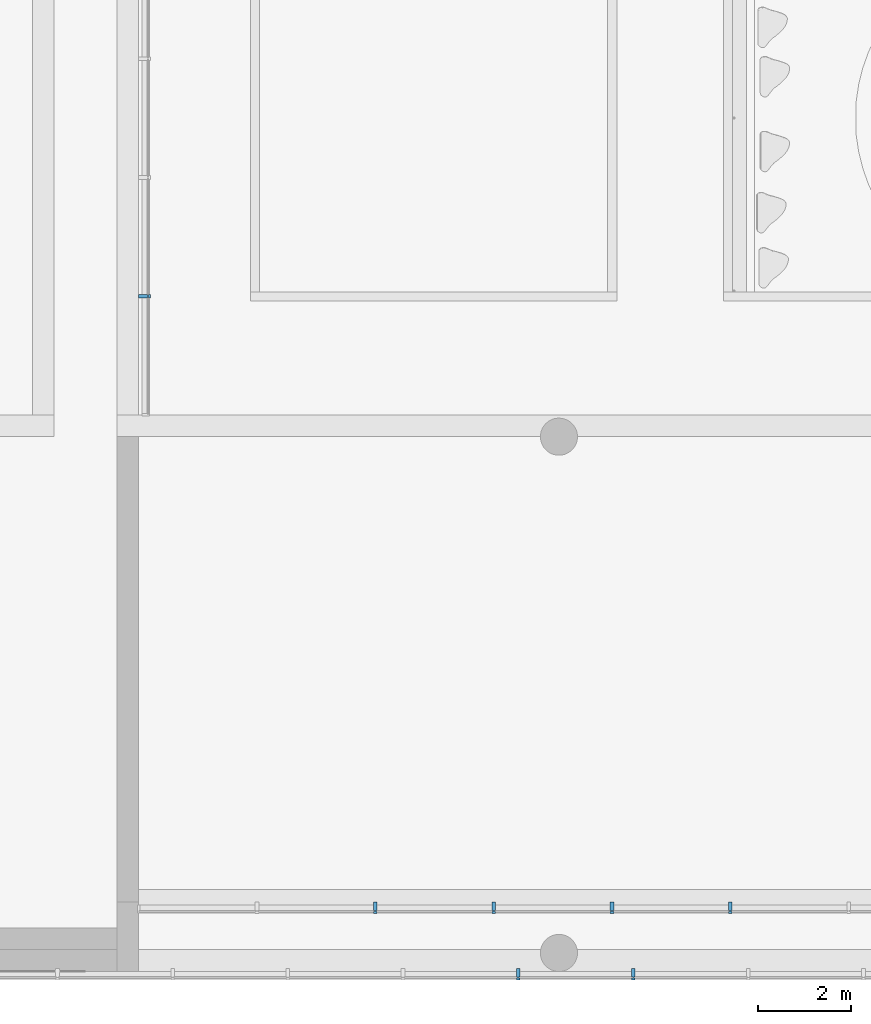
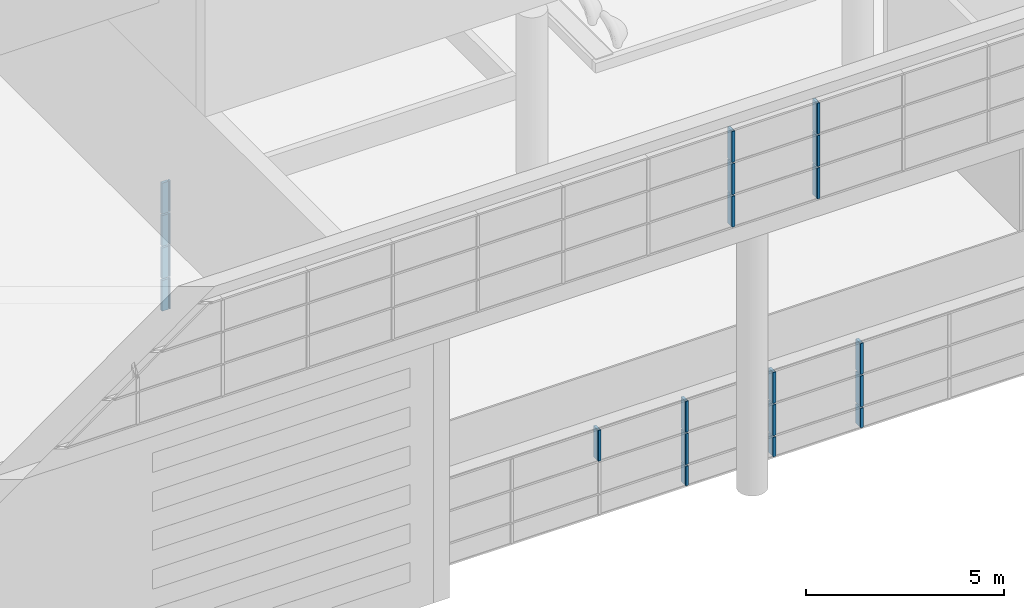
# One storey, part 76 of 105: 20 building element parts, 4 elements without a shape of their own.
"""IFC4 building model written with IfcOpenShell, lengths in millimetres."""

from ifc_helpers import new_model, entity, si_unit, converted_unit, derived_unit, direction, frame, origin_with_axes, place, context, subcontext, project, spatial, triangles, material, element, aggregate, save


model = new_model("IFC4")

# Units and contexts
model_context = context("Model", 3, precision=1e-05, world=origin_with_axes(), true_north=direction((0.0, 1.0)))
body_context = subcontext(model_context, "Body", "Model", "MODEL_VIEW")
ifc_project = project(units=[si_unit("LENGTHUNIT", "METRE", prefix="MILLI"), si_unit("AREAUNIT", "SQUARE_METRE"), si_unit("VOLUMEUNIT", "CUBIC_METRE"), converted_unit("PLANEANGLEUNIT", "DEGREE", entity("IfcLengthMeasure", 0.017453), si_unit("PLANEANGLEUNIT", "RADIAN"), dimensions=[0, 0, 0, 0, 0, 0, 0]), si_unit("SOLIDANGLEUNIT", "STERADIAN"), si_unit("MASSUNIT", "GRAM"), si_unit("TIMEUNIT", "SECOND"), si_unit("THERMODYNAMICTEMPERATUREUNIT", "DEGREE_CELSIUS"), si_unit("LUMINOUSINTENSITYUNIT", "LUMEN"), si_unit("POWERUNIT", "WATT"), derived_unit("THERMALTRANSMITTANCEUNIT", [(si_unit("POWERUNIT", "WATT"), 1), (si_unit("THERMODYNAMICTEMPERATUREUNIT", "KELVIN"), -1), (si_unit("AREAUNIT", "SQUARE_METRE"), -1)])], contexts=[model_context])

# Site, building, storey
site_placement = place(None, origin_with_axes())
site = spatial("IfcSite", under=ifc_project, at=site_placement, Name="Default Site", CompositionType="ELEMENT")
building_placement = place(site_placement, origin_with_axes())
building = spatial("IfcBuilding", under=site, at=building_placement, Name="Default Building", CompositionType="ELEMENT")
storey_placement = place(building_placement, origin_with_axes())
storey = spatial("IfcBuildingStorey", under=building, at=storey_placement, Name="OG - Story", CompositionType="ELEMENT", Elevation=0.0)

# Curtain wall, building element parts
curtain_wall_1_placement = place(storey_placement, origin_with_axes())
curtain_wall_1 = element("IfcCurtainWall", 1, at=curtain_wall_1_placement, inside=storey, Name="Fassade-001", PredefinedType="NOTDEFINED")
ifc_material = material(Name="Blech")
building_element_part_1_placement = place(curtain_wall_1_placement, frame((52496.845873, -51289.262838, 0.0), z_axis=(0.0, 0.0, 1.0), x_axis=(1.0, 0.0, 0.0)))
building_element_part_1 = element("IfcBuildingElementPart", 2, at=building_element_part_1_placement, material=ifc_material, Name="Blech", PredefinedType="NOTDEFINED", context=body_context, shape_type="Tessellation", body=[
    triangles([(6417.273, 10.0, 625.0), (6417.273, 200.0, 625.0), (6387.273, 10.0, 625.0), (6367.273, 10.0, 625.0), (6387.273, -9.999, 625.0), (6417.273, -49.999, 625.0), (6417.273, -9.999, 625.0), (6337.273, 200.0, 625.0), (6337.273, 10.0, 625.0), (6367.273, -9.999, 625.0), (6337.273, -9.999, 625.0), (6337.273, -49.999, 625.0), (6387.273, 10.0, 25.0), (6417.273, 10.0, 25.0), (6417.273, 200.0, 25.0), (6337.273, 200.0, 25.0), (6337.273, 10.0, 25.0), (6367.273, 10.0, 25.0), (6367.273, -9.999, 25.0), (6337.273, -9.999, 25.0), (6337.273, -49.999, 25.0), (6417.273, -49.999, 25.0), (6417.273, -9.999, 25.0), (6387.273, -9.999, 25.0)], [[1, 2, 3], [3, 2, 4], [3, 4, 5], [5, 4, 6], [5, 6, 7], [8, 9, 4], [8, 4, 2], [6, 4, 10], [6, 10, 11], [6, 11, 12], [1, 3, 13], [1, 13, 14], [1, 14, 15], [1, 15, 2], [2, 15, 16], [2, 16, 8], [9, 8, 16], [9, 16, 17], [9, 17, 18], [9, 18, 4], [4, 18, 19], [4, 19, 10], [11, 10, 19], [11, 19, 20], [20, 21, 12], [20, 12, 11], [12, 21, 22], [12, 22, 6], [23, 7, 6], [23, 6, 22], [5, 7, 23], [5, 23, 24], [3, 5, 24], [3, 24, 13], [23, 22, 24], [24, 22, 19], [24, 19, 13], [13, 19, 15], [13, 15, 14], [21, 20, 19], [21, 19, 22], [15, 19, 18], [15, 18, 17], [15, 17, 16]], closed=False),
])
building_element_part_2_placement = place(curtain_wall_1_placement, frame((52496.845873, -51289.262838, 0.0), z_axis=(0.0, 0.0, 1.0), x_axis=(1.0, 0.0, 0.0)))
building_element_part_2 = element("IfcBuildingElementPart", 3, at=building_element_part_2_placement, material=ifc_material, Name="Blech", PredefinedType="NOTDEFINED", context=body_context, shape_type="Tessellation", body=[
    triangles([(8968.182, 10.0, 625.0), (8968.182, 200.0, 625.0), (8938.182, 10.0, 625.0), (8918.182, 10.0, 625.0), (8938.182, -9.999, 625.0), (8968.182, -49.999, 625.0), (8968.182, -9.999, 625.0), (8888.182, 200.0, 625.0), (8888.182, 10.0, 625.0), (8918.182, -9.999, 625.0), (8888.182, -9.999, 625.0), (8888.182, -49.999, 625.0), (8938.182, 10.0, 25.0), (8968.182, 10.0, 25.0), (8968.182, 200.0, 25.0), (8888.182, 200.0, 25.0), (8888.182, 10.0, 25.0), (8918.182, 10.0, 25.0), (8918.182, -9.999, 25.0), (8888.182, -9.999, 25.0), (8888.182, -49.999, 25.0), (8968.182, -49.999, 25.0), (8968.182, -9.999, 25.0), (8938.182, -9.999, 25.0)], [[1, 2, 3], [3, 2, 4], [3, 4, 5], [5, 4, 6], [5, 6, 7], [8, 9, 4], [8, 4, 2], [6, 4, 10], [6, 10, 11], [6, 11, 12], [1, 3, 13], [1, 13, 14], [1, 14, 15], [1, 15, 2], [2, 15, 16], [2, 16, 8], [9, 8, 16], [9, 16, 17], [9, 17, 18], [9, 18, 4], [4, 18, 19], [4, 19, 10], [11, 10, 19], [11, 19, 20], [20, 21, 12], [20, 12, 11], [12, 21, 22], [12, 22, 6], [23, 7, 6], [23, 6, 22], [5, 7, 23], [5, 23, 24], [3, 5, 24], [3, 24, 13], [23, 22, 24], [24, 22, 19], [24, 19, 13], [13, 19, 15], [13, 15, 14], [21, 20, 19], [21, 19, 22], [15, 19, 18], [15, 18, 17], [15, 17, 16]], closed=False),
])
building_element_part_3_placement = place(curtain_wall_1_placement, frame((52496.845873, -51289.262838, 0.0), z_axis=(0.0, 0.0, 1.0), x_axis=(1.0, 0.0, 0.0)))
building_element_part_3 = element("IfcBuildingElementPart", 4, at=building_element_part_3_placement, material=ifc_material, Name="Blech", PredefinedType="NOTDEFINED", context=body_context, shape_type="Tessellation", body=[
    triangles([(11519.091, 10.0, 625.0), (11519.091, 200.0, 625.0), (11489.091, 10.0, 625.0), (11469.091, 10.0, 625.0), (11489.091, -9.999, 625.0), (11519.091, -49.999, 625.0), (11519.091, -9.999, 625.0), (11439.091, 200.0, 625.0), (11439.091, 10.0, 625.0), (11469.091, -9.999, 625.0), (11439.091, -9.999, 625.0), (11439.091, -49.999, 625.0), (11489.091, 10.0, 25.0), (11519.091, 10.0, 25.0), (11519.091, 200.0, 25.0), (11439.091, 200.0, 25.0), (11439.091, 10.0, 25.0), (11469.091, 10.0, 25.0), (11469.091, -9.999, 25.0), (11439.091, -9.999, 25.0), (11439.091, -49.999, 25.0), (11519.091, -49.999, 25.0), (11519.091, -9.999, 25.0), (11489.091, -9.999, 25.0)], [[1, 2, 3], [3, 2, 4], [3, 4, 5], [5, 4, 6], [5, 6, 7], [8, 9, 4], [8, 4, 2], [6, 4, 10], [6, 10, 11], [6, 11, 12], [1, 3, 13], [1, 13, 14], [1, 14, 15], [1, 15, 2], [2, 15, 16], [2, 16, 8], [9, 8, 16], [9, 16, 17], [9, 17, 18], [9, 18, 4], [4, 18, 19], [4, 19, 10], [11, 10, 19], [11, 19, 20], [20, 21, 12], [20, 12, 11], [12, 21, 22], [12, 22, 6], [23, 7, 6], [23, 6, 22], [5, 7, 23], [5, 23, 24], [3, 5, 24], [3, 24, 13], [23, 22, 24], [24, 22, 19], [24, 19, 13], [13, 19, 15], [13, 15, 14], [21, 20, 19], [21, 19, 22], [15, 19, 18], [15, 18, 17], [15, 17, 16]], closed=False),
])
building_element_part_4_placement = place(curtain_wall_1_placement, frame((52496.845873, -51289.262838, 0.0), z_axis=(0.0, 0.0, 1.0), x_axis=(1.0, 0.0, 0.0)))
building_element_part_4 = element("IfcBuildingElementPart", 5, at=building_element_part_4_placement, material=ifc_material, Name="Blech", PredefinedType="NOTDEFINED", context=body_context, shape_type="Tessellation", body=[
    triangles([(6417.273, 10.0, 1625.0), (6417.273, 200.0, 1625.0), (6387.273, 10.0, 1625.0), (6367.273, 10.0, 1625.0), (6387.273, -9.999, 1625.0), (6417.273, -49.999, 1625.0), (6417.273, -9.999, 1625.0), (6337.273, 200.0, 1625.0), (6337.273, 10.0, 1625.0), (6367.273, -9.999, 1625.0), (6337.273, -9.999, 1625.0), (6337.273, -49.999, 1625.0), (6387.273, 10.0, 675.0), (6417.273, 10.0, 675.0), (6417.273, 200.0, 675.0), (6337.273, 200.0, 675.0), (6337.273, 10.0, 675.0), (6367.273, 10.0, 675.0), (6367.273, -9.999, 675.0), (6337.273, -9.999, 675.0), (6337.273, -49.999, 675.0), (6417.273, -49.999, 675.0), (6417.273, -9.999, 675.0), (6387.273, -9.999, 675.0)], [[1, 2, 3], [3, 2, 4], [3, 4, 5], [5, 4, 6], [5, 6, 7], [8, 9, 4], [8, 4, 2], [6, 4, 10], [6, 10, 11], [6, 11, 12], [1, 3, 13], [1, 13, 14], [1, 14, 15], [1, 15, 2], [2, 15, 16], [2, 16, 8], [9, 8, 16], [9, 16, 17], [9, 17, 18], [9, 18, 4], [4, 18, 19], [4, 19, 10], [11, 10, 19], [11, 19, 20], [20, 21, 12], [20, 12, 11], [12, 21, 22], [12, 22, 6], [23, 7, 6], [23, 6, 22], [5, 7, 23], [5, 23, 24], [3, 5, 24], [3, 24, 13], [23, 22, 24], [24, 22, 19], [24, 19, 13], [13, 19, 15], [13, 15, 14], [21, 20, 19], [21, 19, 22], [15, 19, 18], [15, 18, 17], [15, 17, 16]], closed=False),
])
building_element_part_5_placement = place(curtain_wall_1_placement, frame((52496.845873, -51289.262838, 0.0), z_axis=(0.0, 0.0, 1.0), x_axis=(1.0, 0.0, 0.0)))
building_element_part_5 = element("IfcBuildingElementPart", 6, at=building_element_part_5_placement, material=ifc_material, Name="Blech", PredefinedType="NOTDEFINED", context=body_context, shape_type="Tessellation", body=[
    triangles([(8968.182, 10.0, 1625.0), (8968.182, 200.0, 1625.0), (8938.182, 10.0, 1625.0), (8918.182, 10.0, 1625.0), (8938.182, -9.999, 1625.0), (8968.182, -49.999, 1625.0), (8968.182, -9.999, 1625.0), (8888.182, 200.0, 1625.0), (8888.182, 10.0, 1625.0), (8918.182, -9.999, 1625.0), (8888.182, -9.999, 1625.0), (8888.182, -49.999, 1625.0), (8938.182, 10.0, 675.0), (8968.182, 10.0, 675.0), (8968.182, 200.0, 675.0), (8888.182, 200.0, 675.0), (8888.182, 10.0, 675.0), (8918.182, 10.0, 675.0), (8918.182, -9.999, 675.0), (8888.182, -9.999, 675.0), (8888.182, -49.999, 675.0), (8968.182, -49.999, 675.0), (8968.182, -9.999, 675.0), (8938.182, -9.999, 675.0)], [[1, 2, 3], [3, 2, 4], [3, 4, 5], [5, 4, 6], [5, 6, 7], [8, 9, 4], [8, 4, 2], [6, 4, 10], [6, 10, 11], [6, 11, 12], [1, 3, 13], [1, 13, 14], [1, 14, 15], [1, 15, 2], [2, 15, 16], [2, 16, 8], [9, 8, 16], [9, 16, 17], [9, 17, 18], [9, 18, 4], [4, 18, 19], [4, 19, 10], [11, 10, 19], [11, 19, 20], [20, 21, 12], [20, 12, 11], [12, 21, 22], [12, 22, 6], [23, 7, 6], [23, 6, 22], [5, 7, 23], [5, 23, 24], [3, 5, 24], [3, 24, 13], [23, 22, 24], [24, 22, 19], [24, 19, 13], [13, 19, 15], [13, 15, 14], [21, 20, 19], [21, 19, 22], [15, 19, 18], [15, 18, 17], [15, 17, 16]], closed=False),
])
building_element_part_6_placement = place(curtain_wall_1_placement, frame((52496.845873, -51289.262838, 0.0), z_axis=(0.0, 0.0, 1.0), x_axis=(1.0, 0.0, 0.0)))
building_element_part_6 = element("IfcBuildingElementPart", 7, at=building_element_part_6_placement, material=ifc_material, Name="Blech", PredefinedType="NOTDEFINED", context=body_context, shape_type="Tessellation", body=[
    triangles([(11519.091, 10.0, 1625.0), (11519.091, 200.0, 1625.0), (11489.091, 10.0, 1625.0), (11469.091, 10.0, 1625.0), (11489.091, -9.999, 1625.0), (11519.091, -49.999, 1625.0), (11519.091, -9.999, 1625.0), (11439.091, 200.0, 1625.0), (11439.091, 10.0, 1625.0), (11469.091, -9.999, 1625.0), (11439.091, -9.999, 1625.0), (11439.091, -49.999, 1625.0), (11489.091, 10.0, 675.0), (11519.091, 10.0, 675.0), (11519.091, 200.0, 675.0), (11439.091, 200.0, 675.0), (11439.091, 10.0, 675.0), (11469.091, 10.0, 675.0), (11469.091, -9.999, 675.0), (11439.091, -9.999, 675.0), (11439.091, -49.999, 675.0), (11519.091, -49.999, 675.0), (11519.091, -9.999, 675.0), (11489.091, -9.999, 675.0)], [[1, 2, 3], [3, 2, 4], [3, 4, 5], [5, 4, 6], [5, 6, 7], [8, 9, 4], [8, 4, 2], [6, 4, 10], [6, 10, 11], [6, 11, 12], [1, 3, 13], [1, 13, 14], [1, 14, 15], [1, 15, 2], [2, 15, 16], [2, 16, 8], [9, 8, 16], [9, 16, 17], [9, 17, 18], [9, 18, 4], [4, 18, 19], [4, 19, 10], [11, 10, 19], [11, 19, 20], [20, 21, 12], [20, 12, 11], [12, 21, 22], [12, 22, 6], [23, 7, 6], [23, 6, 22], [5, 7, 23], [5, 23, 24], [3, 5, 24], [3, 24, 13], [23, 22, 24], [24, 22, 19], [24, 19, 13], [13, 19, 15], [13, 15, 14], [21, 20, 19], [21, 19, 22], [15, 19, 18], [15, 18, 17], [15, 17, 16]], closed=False),
])
building_element_part_7_placement = place(curtain_wall_1_placement, frame((52496.845873, -51289.262838, 0.0), z_axis=(0.0, 0.0, 1.0), x_axis=(1.0, 0.0, 0.0)))
building_element_part_7 = element("IfcBuildingElementPart", 8, at=building_element_part_7_placement, material=ifc_material, Name="Blech", PredefinedType="NOTDEFINED", context=body_context, shape_type="Tessellation", body=[
    triangles([(3866.364, 10.0, 2625.0), (3866.364, 200.0, 2625.0), (3836.364, 10.0, 2625.0), (3816.364, 10.0, 2625.0), (3836.364, -9.999, 2625.0), (3866.364, -49.999, 2625.0), (3866.364, -9.999, 2625.0), (3786.364, 200.0, 2625.0), (3786.364, 10.0, 2625.0), (3816.364, -9.999, 2625.0), (3786.364, -9.999, 2625.0), (3786.364, -49.999, 2625.0), (3836.364, 10.0, 1675.0), (3866.364, 10.0, 1675.0), (3866.364, 200.0, 1675.0), (3786.364, 200.0, 1675.0), (3786.364, 10.0, 1675.0), (3816.364, 10.0, 1675.0), (3816.364, -9.999, 1675.0), (3786.364, -9.999, 1675.0), (3786.364, -49.999, 1675.0), (3866.364, -49.999, 1675.0), (3866.364, -9.999, 1675.0), (3836.364, -9.999, 1675.0)], [[1, 2, 3], [3, 2, 4], [3, 4, 5], [5, 4, 6], [5, 6, 7], [8, 9, 4], [8, 4, 2], [6, 4, 10], [6, 10, 11], [6, 11, 12], [1, 3, 13], [1, 13, 14], [1, 14, 15], [1, 15, 2], [2, 15, 16], [2, 16, 8], [9, 8, 16], [9, 16, 17], [9, 17, 18], [9, 18, 4], [4, 18, 19], [4, 19, 10], [11, 10, 19], [11, 19, 20], [20, 21, 12], [20, 12, 11], [12, 21, 22], [12, 22, 6], [23, 7, 6], [23, 6, 22], [5, 7, 23], [5, 23, 24], [3, 5, 24], [3, 24, 13], [23, 22, 24], [24, 22, 19], [24, 19, 13], [13, 19, 15], [13, 15, 14], [21, 20, 19], [21, 19, 22], [15, 19, 18], [15, 18, 17], [15, 17, 16]], closed=False),
])
building_element_part_8_placement = place(curtain_wall_1_placement, frame((52496.845873, -51289.262838, 0.0), z_axis=(0.0, 0.0, 1.0), x_axis=(1.0, 0.0, 0.0)))
building_element_part_8 = element("IfcBuildingElementPart", 9, at=building_element_part_8_placement, material=ifc_material, Name="Blech", PredefinedType="NOTDEFINED", context=body_context, shape_type="Tessellation", body=[
    triangles([(6417.273, 10.0, 2625.0), (6417.273, 200.0, 2625.0), (6387.273, 10.0, 2625.0), (6367.273, 10.0, 2625.0), (6387.273, -9.999, 2625.0), (6417.273, -49.999, 2625.0), (6417.273, -9.999, 2625.0), (6337.273, 200.0, 2625.0), (6337.273, 10.0, 2625.0), (6367.273, -9.999, 2625.0), (6337.273, -9.999, 2625.0), (6337.273, -49.999, 2625.0), (6387.273, 10.0, 1675.0), (6417.273, 10.0, 1675.0), (6417.273, 200.0, 1675.0), (6337.273, 200.0, 1675.0), (6337.273, 10.0, 1675.0), (6367.273, 10.0, 1675.0), (6367.273, -9.999, 1675.0), (6337.273, -9.999, 1675.0), (6337.273, -49.999, 1675.0), (6417.273, -49.999, 1675.0), (6417.273, -9.999, 1675.0), (6387.273, -9.999, 1675.0)], [[1, 2, 3], [3, 2, 4], [3, 4, 5], [5, 4, 6], [5, 6, 7], [8, 9, 4], [8, 4, 2], [6, 4, 10], [6, 10, 11], [6, 11, 12], [1, 3, 13], [1, 13, 14], [1, 14, 15], [1, 15, 2], [2, 15, 16], [2, 16, 8], [9, 8, 16], [9, 16, 17], [9, 17, 18], [9, 18, 4], [4, 18, 19], [4, 19, 10], [11, 10, 19], [11, 19, 20], [20, 21, 12], [20, 12, 11], [12, 21, 22], [12, 22, 6], [23, 7, 6], [23, 6, 22], [5, 7, 23], [5, 23, 24], [3, 5, 24], [3, 24, 13], [23, 22, 24], [24, 22, 19], [24, 19, 13], [13, 19, 15], [13, 15, 14], [21, 20, 19], [21, 19, 22], [15, 19, 18], [15, 18, 17], [15, 17, 16]], closed=False),
])
building_element_part_9_placement = place(curtain_wall_1_placement, frame((52496.845873, -51289.262838, 0.0), z_axis=(0.0, 0.0, 1.0), x_axis=(1.0, 0.0, 0.0)))
building_element_part_9 = element("IfcBuildingElementPart", 10, at=building_element_part_9_placement, material=ifc_material, Name="Blech", PredefinedType="NOTDEFINED", context=body_context, shape_type="Tessellation", body=[
    triangles([(8968.182, 10.0, 2625.0), (8968.182, 200.0, 2625.0), (8938.182, 10.0, 2625.0), (8918.182, 10.0, 2625.0), (8938.182, -9.999, 2625.0), (8968.182, -49.999, 2625.0), (8968.182, -9.999, 2625.0), (8888.182, 200.0, 2625.0), (8888.182, 10.0, 2625.0), (8918.182, -9.999, 2625.0), (8888.182, -9.999, 2625.0), (8888.182, -49.999, 2625.0), (8938.182, 10.0, 1675.0), (8968.182, 10.0, 1675.0), (8968.182, 200.0, 1675.0), (8888.182, 200.0, 1675.0), (8888.182, 10.0, 1675.0), (8918.182, 10.0, 1675.0), (8918.182, -9.999, 1675.0), (8888.182, -9.999, 1675.0), (8888.182, -49.999, 1675.0), (8968.182, -49.999, 1675.0), (8968.182, -9.999, 1675.0), (8938.182, -9.999, 1675.0)], [[1, 2, 3], [3, 2, 4], [3, 4, 5], [5, 4, 6], [5, 6, 7], [8, 9, 4], [8, 4, 2], [6, 4, 10], [6, 10, 11], [6, 11, 12], [1, 3, 13], [1, 13, 14], [1, 14, 15], [1, 15, 2], [2, 15, 16], [2, 16, 8], [9, 8, 16], [9, 16, 17], [9, 17, 18], [9, 18, 4], [4, 18, 19], [4, 19, 10], [11, 10, 19], [11, 19, 20], [20, 21, 12], [20, 12, 11], [12, 21, 22], [12, 22, 6], [23, 7, 6], [23, 6, 22], [5, 7, 23], [5, 23, 24], [3, 5, 24], [3, 24, 13], [23, 22, 24], [24, 22, 19], [24, 19, 13], [13, 19, 15], [13, 15, 14], [21, 20, 19], [21, 19, 22], [15, 19, 18], [15, 18, 17], [15, 17, 16]], closed=False),
])
building_element_part_10_placement = place(curtain_wall_1_placement, frame((52496.845873, -51289.262838, 0.0), z_axis=(0.0, 0.0, 1.0), x_axis=(1.0, 0.0, 0.0)))
building_element_part_10 = element("IfcBuildingElementPart", 11, at=building_element_part_10_placement, material=ifc_material, Name="Blech", PredefinedType="NOTDEFINED", context=body_context, shape_type="Tessellation", body=[
    triangles([(11519.091, 10.0, 2625.0), (11519.091, 200.0, 2625.0), (11489.091, 10.0, 2625.0), (11469.091, 10.0, 2625.0), (11489.091, -9.999, 2625.0), (11519.091, -49.999, 2625.0), (11519.091, -9.999, 2625.0), (11439.091, 200.0, 2625.0), (11439.091, 10.0, 2625.0), (11469.091, -9.999, 2625.0), (11439.091, -9.999, 2625.0), (11439.091, -49.999, 2625.0), (11489.091, 10.0, 1675.0), (11519.091, 10.0, 1675.0), (11519.091, 200.0, 1675.0), (11439.091, 200.0, 1675.0), (11439.091, 10.0, 1675.0), (11469.091, 10.0, 1675.0), (11469.091, -9.999, 1675.0), (11439.091, -9.999, 1675.0), (11439.091, -49.999, 1675.0), (11519.091, -49.999, 1675.0), (11519.091, -9.999, 1675.0), (11489.091, -9.999, 1675.0)], [[1, 2, 3], [3, 2, 4], [3, 4, 5], [5, 4, 6], [5, 6, 7], [8, 9, 4], [8, 4, 2], [6, 4, 10], [6, 10, 11], [6, 11, 12], [1, 3, 13], [1, 13, 14], [1, 14, 15], [1, 15, 2], [2, 15, 16], [2, 16, 8], [9, 8, 16], [9, 16, 17], [9, 17, 18], [9, 18, 4], [4, 18, 19], [4, 19, 10], [11, 10, 19], [11, 19, 20], [20, 21, 12], [20, 12, 11], [12, 21, 22], [12, 22, 6], [23, 7, 6], [23, 6, 22], [5, 7, 23], [5, 23, 24], [3, 5, 24], [3, 24, 13], [23, 22, 24], [24, 22, 19], [24, 19, 13], [13, 19, 15], [13, 15, 14], [21, 20, 19], [21, 19, 22], [15, 19, 18], [15, 18, 17], [15, 17, 16]], closed=False),
])
aggregate(curtain_wall_1, [building_element_part_1, building_element_part_2, building_element_part_3, building_element_part_4, building_element_part_5, building_element_part_6, building_element_part_7, building_element_part_8, building_element_part_9, building_element_part_10])

curtain_wall_2_placement = place(storey_placement, origin_with_axes())
curtain_wall_2 = element("IfcCurtainWall", 12, at=curtain_wall_2_placement, inside=storey, Name="Fassade-002", PredefinedType="NOTDEFINED")
building_element_part_11_placement = place(curtain_wall_2_placement, frame((33339.077852, -52722.262838, 8660.317768), z_axis=(0.0, 0.0, 1.0), x_axis=(1.0, 0.0, 0.0)))
building_element_part_11 = element("IfcBuildingElementPart", 13, at=building_element_part_11_placement, material=ifc_material, Name="Blech", PredefinedType="NOTDEFINED", context=body_context, shape_type="Tessellation", body=[
    triangles([(26101.975, 10.0, 975.0), (26101.975, 200.0, 975.0), (26071.975, 10.0, 975.0), (26051.975, 10.0, 975.0), (26071.975, -9.999, 975.0), (26101.975, -49.999, 975.0), (26101.975, -9.999, 975.0), (26021.975, 200.0, 975.0), (26021.975, 10.0, 975.0), (26051.975, -9.999, 975.0), (26021.975, -9.999, 975.0), (26021.975, -49.999, 975.0), (26071.975, 10.0, 25.0), (26101.975, 10.0, 25.0), (26101.975, 200.0, 25.0), (26021.975, 200.0, 25.0), (26021.975, 10.0, 25.0), (26051.975, 10.0, 25.0), (26051.975, -9.999, 25.0), (26021.975, -9.999, 25.0), (26021.975, -49.999, 25.0), (26101.975, -49.999, 25.0), (26101.975, -9.999, 25.0), (26071.975, -9.999, 25.0)], [[1, 2, 3], [3, 2, 4], [3, 4, 5], [5, 4, 6], [5, 6, 7], [8, 9, 4], [8, 4, 2], [6, 4, 10], [6, 10, 11], [6, 11, 12], [1, 3, 13], [1, 13, 14], [1, 14, 15], [1, 15, 2], [2, 15, 16], [2, 16, 8], [9, 8, 16], [9, 16, 17], [9, 17, 18], [9, 18, 4], [4, 18, 19], [4, 19, 10], [11, 10, 19], [11, 19, 20], [20, 21, 12], [20, 12, 11], [12, 21, 22], [12, 22, 6], [23, 7, 6], [23, 6, 22], [5, 7, 23], [5, 23, 24], [3, 5, 24], [3, 24, 13], [23, 22, 24], [24, 22, 19], [24, 19, 13], [13, 19, 15], [13, 15, 14], [21, 20, 19], [21, 19, 22], [15, 19, 18], [15, 18, 17], [15, 17, 16]], closed=False),
])
building_element_part_12_placement = place(curtain_wall_2_placement, frame((33339.077852, -52722.262838, 8660.317768), z_axis=(0.0, 0.0, 1.0), x_axis=(1.0, 0.0, 0.0)))
building_element_part_12 = element("IfcBuildingElementPart", 14, at=building_element_part_12_placement, material=ifc_material, Name="Blech", PredefinedType="NOTDEFINED", context=body_context, shape_type="Tessellation", body=[
    triangles([(26101.975, 10.0, 1975.0), (26101.975, 200.0, 1975.0), (26071.975, 10.0, 1975.0), (26051.975, 10.0, 1975.0), (26071.975, -9.999, 1975.0), (26101.975, -49.999, 1975.0), (26101.975, -9.999, 1975.0), (26021.975, 200.0, 1975.0), (26021.975, 10.0, 1975.0), (26051.975, -9.999, 1975.0), (26021.975, -9.999, 1975.0), (26021.975, -49.999, 1975.0), (26071.975, 10.0, 1025.0), (26101.975, 10.0, 1025.0), (26101.975, 200.0, 1025.0), (26021.975, 200.0, 1025.0), (26021.975, 10.0, 1025.0), (26051.975, 10.0, 1025.0), (26051.975, -9.999, 1025.0), (26021.975, -9.999, 1025.0), (26021.975, -49.999, 1025.0), (26101.975, -49.999, 1025.0), (26101.975, -9.999, 1025.0), (26071.975, -9.999, 1025.0)], [[1, 2, 3], [3, 2, 4], [3, 4, 5], [5, 4, 6], [5, 6, 7], [8, 9, 4], [8, 4, 2], [6, 4, 10], [6, 10, 11], [6, 11, 12], [1, 3, 13], [1, 13, 14], [1, 14, 15], [1, 15, 2], [2, 15, 16], [2, 16, 8], [9, 8, 16], [9, 16, 17], [9, 17, 18], [9, 18, 4], [4, 18, 19], [4, 19, 10], [11, 10, 19], [11, 19, 20], [20, 21, 12], [20, 12, 11], [12, 21, 22], [12, 22, 6], [23, 7, 6], [23, 6, 22], [5, 7, 23], [5, 23, 24], [3, 5, 24], [3, 24, 13], [23, 22, 24], [24, 22, 19], [24, 19, 13], [13, 19, 15], [13, 15, 14], [21, 20, 19], [21, 19, 22], [15, 19, 18], [15, 18, 17], [15, 17, 16]], closed=False),
])
building_element_part_13_placement = place(curtain_wall_2_placement, frame((33339.077852, -52722.262838, 8660.317768), z_axis=(0.0, 0.0, 1.0), x_axis=(1.0, 0.0, 0.0)))
building_element_part_13 = element("IfcBuildingElementPart", 15, at=building_element_part_13_placement, material=ifc_material, Name="Blech", PredefinedType="NOTDEFINED", context=body_context, shape_type="Tessellation", body=[
    triangles([(26101.975, 10.0, 2975.0), (26101.975, 200.0, 2975.0), (26071.975, 10.0, 2975.0), (26051.975, 10.0, 2975.0), (26071.975, -9.999, 2975.0), (26101.975, -49.999, 2975.0), (26101.975, -9.999, 2975.0), (26021.975, 200.0, 2975.0), (26021.975, 10.0, 2975.0), (26051.975, -9.999, 2975.0), (26021.975, -9.999, 2975.0), (26021.975, -49.999, 2975.0), (26071.975, 10.0, 2025.0), (26101.975, 10.0, 2025.0), (26101.975, 200.0, 2025.0), (26021.975, 200.0, 2025.0), (26021.975, 10.0, 2025.0), (26051.975, 10.0, 2025.0), (26051.975, -9.999, 2025.0), (26021.975, -9.999, 2025.0), (26021.975, -49.999, 2025.0), (26101.975, -49.999, 2025.0), (26101.975, -9.999, 2025.0), (26071.975, -9.999, 2025.0)], [[1, 2, 3], [3, 2, 4], [3, 4, 5], [5, 4, 6], [5, 6, 7], [8, 9, 4], [8, 4, 2], [6, 4, 10], [6, 10, 11], [6, 11, 12], [1, 3, 13], [1, 13, 14], [1, 14, 15], [1, 15, 2], [2, 15, 16], [2, 16, 8], [9, 8, 16], [9, 16, 17], [9, 17, 18], [9, 18, 4], [4, 18, 19], [4, 19, 10], [11, 10, 19], [11, 19, 20], [20, 21, 12], [20, 12, 11], [12, 21, 22], [12, 22, 6], [23, 7, 6], [23, 6, 22], [5, 7, 23], [5, 23, 24], [3, 5, 24], [3, 24, 13], [23, 22, 24], [24, 22, 19], [24, 19, 13], [13, 19, 15], [13, 15, 14], [21, 20, 19], [21, 19, 22], [15, 19, 18], [15, 18, 17], [15, 17, 16]], closed=False),
])
building_element_part_14_placement = place(curtain_wall_2_placement, frame((33339.077852, -52722.262838, 8660.317768), z_axis=(0.0, 0.0, 1.0), x_axis=(1.0, 0.0, 0.0)))
building_element_part_14 = element("IfcBuildingElementPart", 16, at=building_element_part_14_placement, material=ifc_material, Name="Blech", PredefinedType="NOTDEFINED", context=body_context, shape_type="Tessellation", body=[
    triangles([(28584.068, 10.0, 975.0), (28584.068, 200.0, 975.0), (28554.068, 10.0, 975.0), (28534.068, 10.0, 975.0), (28554.068, -9.999, 975.0), (28584.068, -49.999, 975.0), (28584.068, -9.999, 975.0), (28504.068, 200.0, 975.0), (28504.068, 10.0, 975.0), (28534.068, -9.999, 975.0), (28504.068, -9.999, 975.0), (28504.068, -49.999, 975.0), (28554.068, 10.0, 25.0), (28584.068, 10.0, 25.0), (28584.068, 200.0, 25.0), (28504.068, 200.0, 25.0), (28504.068, 10.0, 25.0), (28534.068, 10.0, 25.0), (28534.068, -9.999, 25.0), (28504.068, -9.999, 25.0), (28504.068, -49.999, 25.0), (28584.068, -49.999, 25.0), (28584.068, -9.999, 25.0), (28554.068, -9.999, 25.0)], [[1, 2, 3], [3, 2, 4], [3, 4, 5], [5, 4, 6], [5, 6, 7], [8, 9, 4], [8, 4, 2], [6, 4, 10], [6, 10, 11], [6, 11, 12], [1, 3, 13], [1, 13, 14], [1, 14, 15], [1, 15, 2], [2, 15, 16], [2, 16, 8], [9, 8, 16], [9, 16, 17], [9, 17, 18], [9, 18, 4], [4, 18, 19], [4, 19, 10], [11, 10, 19], [11, 19, 20], [20, 21, 12], [20, 12, 11], [12, 21, 22], [12, 22, 6], [23, 7, 6], [23, 6, 22], [5, 7, 23], [5, 23, 24], [3, 5, 24], [3, 24, 13], [23, 22, 24], [24, 22, 19], [24, 19, 13], [13, 19, 15], [13, 15, 14], [21, 20, 19], [21, 19, 22], [15, 19, 18], [15, 18, 17], [15, 17, 16]], closed=False),
])
building_element_part_15_placement = place(curtain_wall_2_placement, frame((33339.077852, -52722.262838, 8660.317768), z_axis=(0.0, 0.0, 1.0), x_axis=(1.0, 0.0, 0.0)))
building_element_part_15 = element("IfcBuildingElementPart", 17, at=building_element_part_15_placement, material=ifc_material, Name="Blech", PredefinedType="NOTDEFINED", context=body_context, shape_type="Tessellation", body=[
    triangles([(28584.068, 10.0, 1975.0), (28584.068, 200.0, 1975.0), (28554.068, 10.0, 1975.0), (28534.068, 10.0, 1975.0), (28554.068, -9.999, 1975.0), (28584.068, -49.999, 1975.0), (28584.068, -9.999, 1975.0), (28504.068, 200.0, 1975.0), (28504.068, 10.0, 1975.0), (28534.068, -9.999, 1975.0), (28504.068, -9.999, 1975.0), (28504.068, -49.999, 1975.0), (28554.068, 10.0, 1025.0), (28584.068, 10.0, 1025.0), (28584.068, 200.0, 1025.0), (28504.068, 200.0, 1025.0), (28504.068, 10.0, 1025.0), (28534.068, 10.0, 1025.0), (28534.068, -9.999, 1025.0), (28504.068, -9.999, 1025.0), (28504.068, -49.999, 1025.0), (28584.068, -49.999, 1025.0), (28584.068, -9.999, 1025.0), (28554.068, -9.999, 1025.0)], [[1, 2, 3], [3, 2, 4], [3, 4, 5], [5, 4, 6], [5, 6, 7], [8, 9, 4], [8, 4, 2], [6, 4, 10], [6, 10, 11], [6, 11, 12], [1, 3, 13], [1, 13, 14], [1, 14, 15], [1, 15, 2], [2, 15, 16], [2, 16, 8], [9, 8, 16], [9, 16, 17], [9, 17, 18], [9, 18, 4], [4, 18, 19], [4, 19, 10], [11, 10, 19], [11, 19, 20], [20, 21, 12], [20, 12, 11], [12, 21, 22], [12, 22, 6], [23, 7, 6], [23, 6, 22], [5, 7, 23], [5, 23, 24], [3, 5, 24], [3, 24, 13], [23, 22, 24], [24, 22, 19], [24, 19, 13], [13, 19, 15], [13, 15, 14], [21, 20, 19], [21, 19, 22], [15, 19, 18], [15, 18, 17], [15, 17, 16]], closed=False),
])
building_element_part_16_placement = place(curtain_wall_2_placement, frame((33339.077852, -52722.262838, 8660.317768), z_axis=(0.0, 0.0, 1.0), x_axis=(1.0, 0.0, 0.0)))
building_element_part_16 = element("IfcBuildingElementPart", 18, at=building_element_part_16_placement, material=ifc_material, Name="Blech", PredefinedType="NOTDEFINED", context=body_context, shape_type="Tessellation", body=[
    triangles([(28584.068, 10.0, 2975.0), (28584.068, 200.0, 2975.0), (28554.068, 10.0, 2975.0), (28534.068, 10.0, 2975.0), (28554.068, -9.999, 2975.0), (28584.068, -49.999, 2975.0), (28584.068, -9.999, 2975.0), (28504.068, 200.0, 2975.0), (28504.068, 10.0, 2975.0), (28534.068, -9.999, 2975.0), (28504.068, -9.999, 2975.0), (28504.068, -49.999, 2975.0), (28554.068, 10.0, 2025.0), (28584.068, 10.0, 2025.0), (28584.068, 200.0, 2025.0), (28504.068, 200.0, 2025.0), (28504.068, 10.0, 2025.0), (28534.068, 10.0, 2025.0), (28534.068, -9.999, 2025.0), (28504.068, -9.999, 2025.0), (28504.068, -49.999, 2025.0), (28584.068, -49.999, 2025.0), (28584.068, -9.999, 2025.0), (28554.068, -9.999, 2025.0)], [[1, 2, 3], [3, 2, 4], [3, 4, 5], [5, 4, 6], [5, 6, 7], [8, 9, 4], [8, 4, 2], [6, 4, 10], [6, 10, 11], [6, 11, 12], [1, 3, 13], [1, 13, 14], [1, 14, 15], [1, 15, 2], [2, 15, 16], [2, 16, 8], [9, 8, 16], [9, 16, 17], [9, 17, 18], [9, 18, 4], [4, 18, 19], [4, 19, 10], [11, 10, 19], [11, 19, 20], [20, 21, 12], [20, 12, 11], [12, 21, 22], [12, 22, 6], [23, 7, 6], [23, 6, 22], [5, 7, 23], [5, 23, 24], [3, 5, 24], [3, 24, 13], [23, 22, 24], [24, 22, 19], [24, 19, 13], [13, 19, 15], [13, 15, 14], [21, 20, 19], [21, 19, 22], [15, 19, 18], [15, 18, 17], [15, 17, 16]], closed=False),
])
aggregate(curtain_wall_2, [building_element_part_11, building_element_part_12, building_element_part_13, building_element_part_14, building_element_part_15, building_element_part_16])

curtain_wall_3_placement = place(storey_placement, origin_with_axes())
curtain_wall_3 = element("IfcCurtainWall", 19, at=curtain_wall_3_placement, inside=storey, Name="Fassade-006", PredefinedType="NOTDEFINED")
building_element_part_17_placement = place(curtain_wall_3_placement, frame((51421.391327, -39309.262838, 0.0), z_axis=(0.0, 0.0, 1.0), x_axis=(1.0, 0.0, 0.0)))
building_element_part_17 = element("IfcBuildingElementPart", 20, at=building_element_part_17_placement, material=ifc_material, Name="Blech", PredefinedType="NOTDEFINED", context=body_context, shape_type="Tessellation", body=[
    triangles([(50.0, 1320.0, 975.0), (10.0, 1320.0, 975.0), (50.0, 1240.0, 975.0), (10.0, 1290.0, 975.0), (10.0, 1270.0, 975.0), (-9.999, 1290.0, 975.0), (-9.999, 1270.0, 975.0), (-9.999, 1240.0, 975.0), (-9.999, 1320.0, 975.0), (-199.999, 1320.0, 975.0), (-199.999, 1240.0, 975.0), (10.0, 1240.0, 975.0), (-9.999, 1290.0, 25.0), (-9.999, 1320.0, 25.0), (-199.999, 1320.0, 25.0), (-199.999, 1240.0, 25.0), (-9.999, 1240.0, 25.0), (-9.999, 1270.0, 25.0), (10.0, 1270.0, 25.0), (10.0, 1240.0, 25.0), (50.0, 1240.0, 25.0), (50.0, 1320.0, 25.0), (10.0, 1320.0, 25.0), (10.0, 1290.0, 25.0)], [[1, 2, 3], [3, 2, 4], [3, 4, 5], [5, 4, 6], [5, 6, 7], [8, 9, 10], [8, 10, 11], [3, 5, 12], [9, 6, 13], [9, 13, 14], [9, 14, 15], [9, 15, 10], [10, 15, 16], [10, 16, 11], [8, 11, 16], [8, 16, 17], [8, 17, 18], [8, 18, 7], [7, 18, 19], [7, 19, 5], [12, 5, 19], [12, 19, 20], [20, 21, 3], [20, 3, 12], [3, 21, 22], [3, 22, 1], [23, 2, 1], [23, 1, 22], [4, 2, 23], [4, 23, 24], [6, 4, 24], [6, 24, 13], [21, 20, 22], [22, 20, 19], [22, 19, 24], [24, 19, 18], [24, 18, 13], [14, 17, 16], [14, 16, 15], [22, 24, 23]], closed=False),
])
building_element_part_18_placement = place(curtain_wall_3_placement, frame((51421.391327, -39309.262838, 0.0), z_axis=(0.0, 0.0, 1.0), x_axis=(1.0, 0.0, 0.0)))
building_element_part_18 = element("IfcBuildingElementPart", 21, at=building_element_part_18_placement, material=ifc_material, Name="Blech", PredefinedType="NOTDEFINED", context=body_context, shape_type="Tessellation", body=[
    triangles([(50.0, 1320.0, 1975.0), (10.0, 1320.0, 1975.0), (50.0, 1240.0, 1975.0), (10.0, 1290.0, 1975.0), (10.0, 1270.0, 1975.0), (-9.999, 1290.0, 1975.0), (-9.999, 1270.0, 1975.0), (-9.999, 1240.0, 1975.0), (-9.999, 1320.0, 1975.0), (-199.999, 1320.0, 1975.0), (-199.999, 1240.0, 1975.0), (10.0, 1240.0, 1975.0), (-9.999, 1290.0, 1025.0), (-9.999, 1320.0, 1025.0), (-199.999, 1320.0, 1025.0), (-199.999, 1240.0, 1025.0), (-9.999, 1240.0, 1025.0), (-9.999, 1270.0, 1025.0), (10.0, 1270.0, 1025.0), (10.0, 1240.0, 1025.0), (50.0, 1240.0, 1025.0), (50.0, 1320.0, 1025.0), (10.0, 1320.0, 1025.0), (10.0, 1290.0, 1025.0)], [[1, 2, 3], [3, 2, 4], [3, 4, 5], [5, 4, 6], [5, 6, 7], [8, 9, 10], [8, 10, 11], [3, 5, 12], [9, 6, 13], [9, 13, 14], [9, 14, 15], [9, 15, 10], [10, 15, 16], [10, 16, 11], [8, 11, 16], [8, 16, 17], [8, 17, 18], [8, 18, 7], [7, 18, 19], [7, 19, 5], [12, 5, 19], [12, 19, 20], [20, 21, 3], [20, 3, 12], [3, 21, 22], [3, 22, 1], [23, 2, 1], [23, 1, 22], [4, 2, 23], [4, 23, 24], [6, 4, 24], [6, 24, 13], [21, 20, 22], [22, 20, 19], [22, 19, 24], [24, 19, 18], [24, 18, 13], [14, 17, 16], [14, 16, 15], [22, 24, 23]], closed=False),
])
building_element_part_19_placement = place(curtain_wall_3_placement, frame((51421.391327, -39309.262838, 0.0), z_axis=(0.0, 0.0, 1.0), x_axis=(1.0, 0.0, 0.0)))
building_element_part_19 = element("IfcBuildingElementPart", 22, at=building_element_part_19_placement, material=ifc_material, Name="Blech", PredefinedType="NOTDEFINED", context=body_context, shape_type="Tessellation", body=[
    triangles([(50.0, 1320.0, 2975.0), (10.0, 1320.0, 2975.0), (50.0, 1240.0, 2975.0), (10.0, 1290.0, 2975.0), (10.0, 1270.0, 2975.0), (-9.999, 1290.0, 2975.0), (-9.999, 1270.0, 2975.0), (-9.999, 1240.0, 2975.0), (-9.999, 1320.0, 2975.0), (-199.999, 1320.0, 2975.0), (-199.999, 1240.0, 2975.0), (10.0, 1240.0, 2975.0), (-9.999, 1290.0, 2025.0), (-9.999, 1320.0, 2025.0), (-199.999, 1320.0, 2025.0), (-199.999, 1240.0, 2025.0), (-9.999, 1240.0, 2025.0), (-9.999, 1270.0, 2025.0), (10.0, 1270.0, 2025.0), (10.0, 1240.0, 2025.0), (50.0, 1240.0, 2025.0), (50.0, 1320.0, 2025.0), (10.0, 1320.0, 2025.0), (10.0, 1290.0, 2025.0)], [[1, 2, 3], [3, 2, 4], [3, 4, 5], [5, 4, 6], [5, 6, 7], [8, 9, 10], [8, 10, 11], [3, 5, 12], [9, 6, 13], [9, 13, 14], [9, 14, 15], [9, 15, 10], [10, 15, 16], [10, 16, 11], [8, 11, 16], [8, 16, 17], [8, 17, 18], [8, 18, 7], [7, 18, 19], [7, 19, 5], [12, 5, 19], [12, 19, 20], [20, 21, 3], [20, 3, 12], [3, 21, 22], [3, 22, 1], [23, 2, 1], [23, 1, 22], [4, 2, 23], [4, 23, 24], [6, 4, 24], [6, 24, 13], [21, 20, 22], [22, 20, 19], [22, 19, 24], [24, 19, 18], [24, 18, 13], [14, 17, 16], [14, 16, 15], [22, 24, 23]], closed=False),
])
aggregate(curtain_wall_3, [building_element_part_17, building_element_part_18, building_element_part_19])

# Curtain wall, building element part
curtain_wall_4_placement = place(storey_placement, origin_with_axes())
curtain_wall_4 = element("IfcCurtainWall", 23, at=curtain_wall_4_placement, inside=storey, Name="Fassade-006", PredefinedType="NOTDEFINED")
building_element_part_20_placement = place(curtain_wall_4_placement, frame((51421.391327, -39309.262838, 3000.0), z_axis=(0.0, 0.0, 1.0), x_axis=(1.0, 0.0, 0.0)))
building_element_part_20 = element("IfcBuildingElementPart", 24, at=building_element_part_20_placement, material=ifc_material, Name="Blech", PredefinedType="NOTDEFINED", context=body_context, shape_type="Tessellation", body=[
    triangles([(50.0, 1320.0, 975.0), (10.0, 1320.0, 975.0), (50.0, 1240.0, 975.0), (10.0, 1290.0, 975.0), (10.0, 1270.0, 975.0), (-9.999, 1290.0, 975.0), (-9.999, 1270.0, 975.0), (-9.999, 1240.0, 975.0), (-9.999, 1320.0, 975.0), (-199.999, 1320.0, 975.0), (-199.999, 1240.0, 975.0), (10.0, 1240.0, 975.0), (-9.999, 1290.0, 25.0), (-9.999, 1320.0, 25.0), (-199.999, 1320.0, 25.0), (-199.999, 1240.0, 25.0), (-9.999, 1240.0, 25.0), (-9.999, 1270.0, 25.0), (10.0, 1270.0, 25.0), (10.0, 1240.0, 25.0), (50.0, 1240.0, 25.0), (50.0, 1320.0, 25.0), (10.0, 1320.0, 25.0), (10.0, 1290.0, 25.0)], [[1, 2, 3], [3, 2, 4], [3, 4, 5], [5, 4, 6], [5, 6, 7], [8, 9, 10], [8, 10, 11], [3, 5, 12], [9, 6, 13], [9, 13, 14], [9, 14, 15], [9, 15, 10], [10, 15, 16], [10, 16, 11], [8, 11, 16], [8, 16, 17], [8, 17, 18], [8, 18, 7], [7, 18, 19], [7, 19, 5], [12, 5, 19], [12, 19, 20], [20, 21, 3], [20, 3, 12], [3, 21, 22], [3, 22, 1], [23, 2, 1], [23, 1, 22], [4, 2, 23], [4, 23, 24], [6, 4, 24], [6, 24, 13], [21, 20, 22], [22, 20, 19], [22, 19, 24], [24, 19, 18], [24, 18, 13], [14, 17, 16], [14, 16, 15], [22, 24, 23]], closed=False),
])
aggregate(curtain_wall_4, [building_element_part_20])

save(model, "model.ifc")
